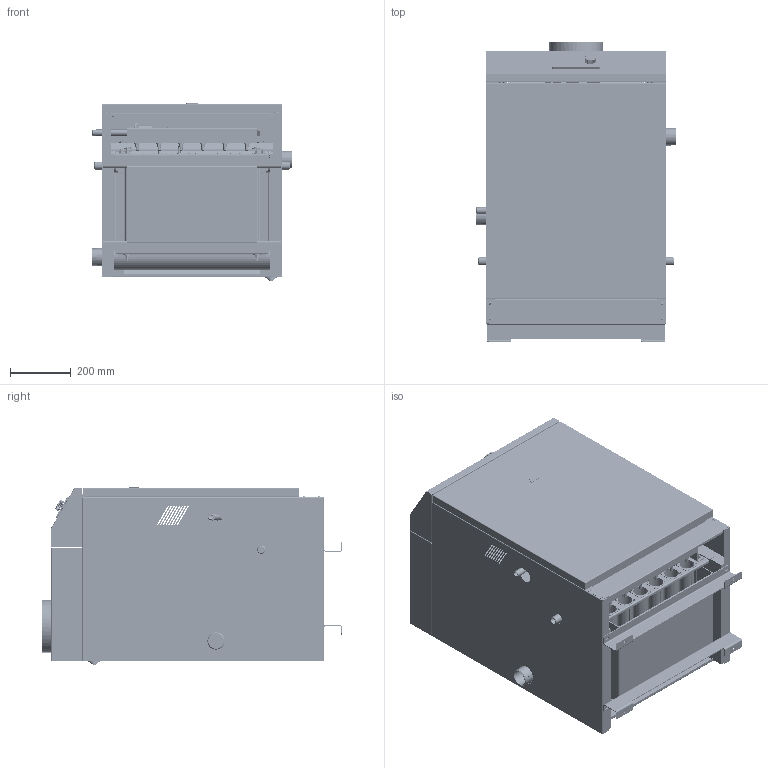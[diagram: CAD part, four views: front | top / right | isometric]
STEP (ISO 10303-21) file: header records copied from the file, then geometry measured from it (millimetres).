
FILE_DESCRIPTION(('STEP AP214'), '1');
FILE_NAME('ﾒﾈﾒﾀﾍ 2016', '', ('UNSPECIFIED'), ('UNSPECIFIED'), 'ASCON STEP Converter 1.6', 'ASCON Math Kernel', '');
FILE_SCHEMA(('AUTOMOTIVE_DESIGN { 1 0 10303 214 3 1 1}'));
Length unit declared in the file: millimetre
Products named in the file (114): КЕВМ.3105.00.00.000-14; КЕВМ.3105.01.00.000-04; -04; КЕВМ.3103.01.01.002-04; КЕВМ.3103.01.02.001; КЕВМ.3103.01.02.003-04; КЕВМ.3103.01.02.004-02; КЕВМ.3103.01.02.007; -01; Заглушка Ду15; Клапан манометра 1_2'''' х 1_4''''; Колба защитная; Кран маевского; Заглушка Ду50; КЕВМ.3105.02.00.000-04; КЕВМ.3105.02.01.004-01; КЕВМ.3105.02.00.003; КЕВМ.3105.02.00.002-04; -03; VTr.090.N.0004; КЕВМ.3105.02.00.001-04; КЕВМ.3105.02.01.000-04; КЕВМ.3103.02.01.002; КЕВМ.3105.02.01.001-04; ШАЙБА под форсунки; КЕВМ.3105.02.01.004; -24; КЕВМ.3105.00.00.003-04; КЕВМ.3105.00.00.002-04; КЕВМ.3105.00.00.004-04; Термостат аварийный IMIT; Колпачек термостата; Значек нет тчги 10х10; Значек закипание 10х10; КЕВМ.3105.04.00.000-14; КЕВМ.3105.04.00.001-14; КЕВМ.3105.04.01.000; КЕВМ.3105.04.01.001; КЕВМ.3105.04.01.002; -02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
Assembly tree (217 placements, depth 5):
  КЕВМ.3105.00.00.000-14
    КЕВМ.3105.01.00.000-04
      -04
      -04
        -04
        КЕВМ.3103.01.01.002-04  x2
      -04
        -04
        (unnamed)
        КЕВМ.3103.01.02.001
        -04
        -04
        КЕВМ.3103.01.02.003-04
        КЕВМ.3103.01.02.004-02
        КЕВМ.3103.01.02.007
      -04
      -04
      (unnamed)
      -01
      Заглушка Ду15
      Клапан манометра 1_2'''' х 1_4''''
      Колба защитная
      Кран маевского
      Заглушка Ду50  x2
      (unnamed)  x2
      (unnamed)  x2
      (unnamed)  x4
      (unnamed)  x6
      (unnamed)  x2
      (unnamed)  x2
    КЕВМ.3105.02.00.000-04
      (unnamed)  x24
      -01
      (unnamed)  x2
      КЕВМ.3105.02.01.004-01
      (unnamed)  x4
      (unnamed)
      (unnamed)
        (unnamed)
      КЕВМ.3105.02.00.003
      (unnamed)  x2
      (unnamed)  x2
      (unnamed)
      (unnamed)  x2
      КЕВМ.3105.02.00.002-04
      -03  x6
      VTr.090.N.0004
      (unnamed)
      КЕВМ.3105.02.00.001-04
      КЕВМ.3105.02.01.000-04
        КЕВМ.3103.02.01.002  x2
        КЕВМ.3105.02.01.001-04
        (unnamed)
        (unnamed)  x6
          (unnamed)
          ШАЙБА под форсунки
        КЕВМ.3105.02.01.004
      (unnamed)
    (unnamed)  x2
    -24
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Bounding box: 660 x 986 x 583.81 mm (x, y, z)
Volume: 94787184.8 mm3; surface area: 12978860.2 mm2
Topology: 241 solids, 241 shells, 8627 faces, 22258 edges, 14485 vertices
Faces by surface type: plane 4834, cylinder 3018, bspline 325, cone 193, torus 119, extrusion 72, sphere 66
Full cylindrical faces by diameter (mm): 0.7 x792, 1 x1, 1.5 x8, 2 x9, 2.5 x13, 2.7 x4, 2.9 x21, 3 x36, 3.2 x44, 3.242 x1, 3.3 x8, 3.5 x36, 4 x54, 4.2 x10, 4.4 x1, 4.5 x12, 4.7 x1, 5 x16, 5.6 x17, 5.8 x1, 6 x9, 6.647 x10, 6.917 x4, 6.95 x2, 7 x6, 7.8 x2, 8 x36, 8.5 x4, 9 x39, 9.2 x2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
Entity records: 187385 total; most frequent: CARTESIAN_POINT 62085, DIRECTION 21578, ORIENTED_EDGE 21304, EDGE_CURVE 10652, AXIS2_PLACEMENT_3D 7264, VERTEX_POINT 7173, VECTOR 7050, LINE 6978
